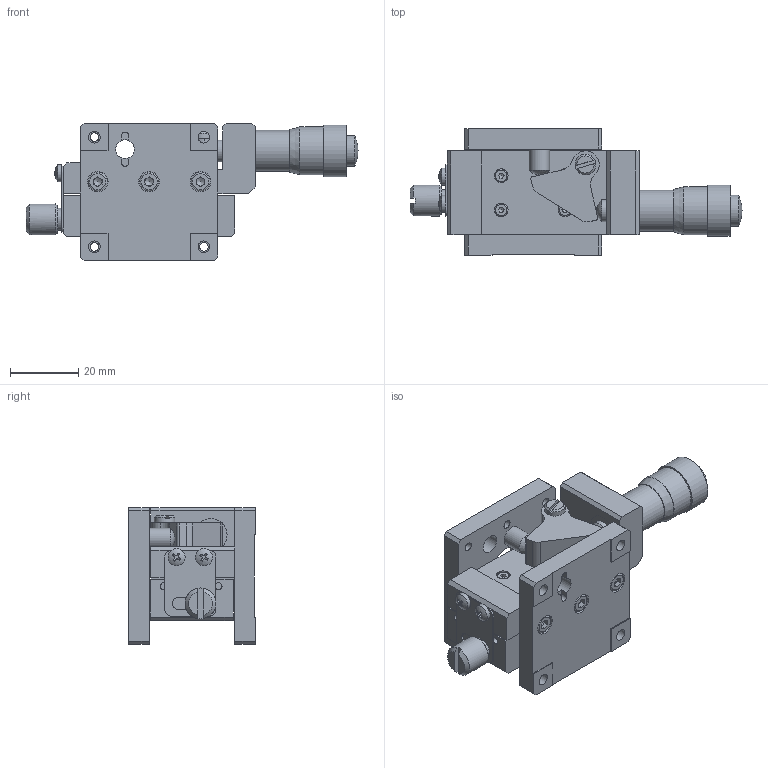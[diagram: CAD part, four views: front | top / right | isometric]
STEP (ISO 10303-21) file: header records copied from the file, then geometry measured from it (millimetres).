
FILE_DESCRIPTION (( 'STEP AP203' ), '1' );
FILE_NAME ('BLZ40.STEP', '2024-07-02T00:48:50', ( 'Windows User' ), ( 'P R C' ), 'SwSTEP 2.0', 'SolidWorks 2024', '' );
FILE_SCHEMA (( 'CONFIG_CONTROL_DESIGN' ));
Length unit declared in the file: millimetre
Products named in the file (1): BLZ40
Bounding box: 96.96 x 37 x 40 mm (x, y, z)
Volume: 49238 mm3; surface area: 30353.7 mm2
Topology: 33 solids, 33 shells, 835 faces, 1931 edges, 1219 vertices
Faces by surface type: plane 526, cylinder 182, cone 69, torus 32, bspline 22, sphere 4
Full cylindrical faces by diameter (mm): 1.65 x8, 2 x8, 2.05 x9, 2.4 x8, 2.5 x23, 2.6 x2, 2.9 x4, 3 x12, 3.4 x7, 3.8 x8, 3.9 x8, 4 x8, 4.5 x7, 5 x6, 5.5 x5, 6 x9, 6.35 x2, 6.5 x1, 8.5 x1, 9 x2, 9.5 x2, 12 x1, 13.6 x1, 14 x1, 15 x2
Entity records: 27410 total; most frequent: CARTESIAN_POINT 9414, DIRECTION 3728, ORIENTED_EDGE 3254, EDGE_CURVE 1627, AXIS2_PLACEMENT_3D 1392, EDGE_LOOP 1234, VERTEX_POINT 1157, FACE_OUTER_BOUND 1004
